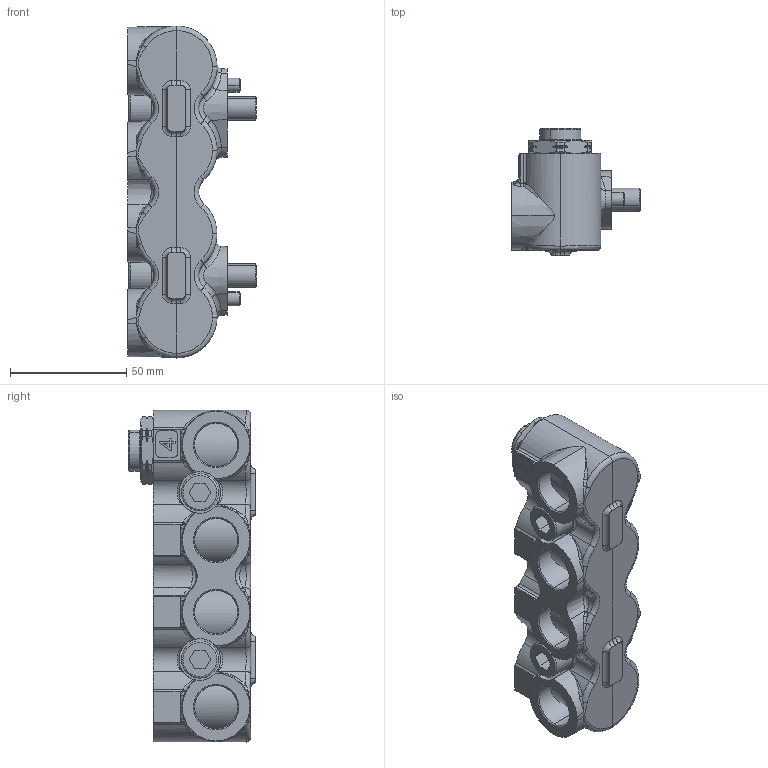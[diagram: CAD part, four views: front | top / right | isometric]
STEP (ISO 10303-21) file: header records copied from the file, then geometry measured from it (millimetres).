
FILE_DESCRIPTION (( 'STEP AP214' ), '1' );
FILE_NAME ('P7319-1B.STEP', '2023-05-25T09:27:05', ( '' ), ( '' ), 'SwSTEP 2.0', 'SolidWorks 2021', '' );
FILE_SCHEMA (( 'AUTOMOTIVE_DESIGN' ));
Length unit declared in the file: millimetre
Products named in the file (1): P7319-1B
Bounding box: 55.5 x 54.8 x 143 mm (x, y, z)
Volume: 189145.5 mm3; surface area: 41549.8 mm2
Topology: 8 solids, 8 shells, 513 faces, 1276 edges, 793 vertices
Faces by surface type: cylinder 144, bspline 144, plane 112, cone 89, torus 24
Entity records: 27223 total; most frequent: CARTESIAN_POINT 10540, ORIENTED_EDGE 2544, DIRECTION 1981, EDGE_CURVE 1272, AXIS2_PLACEMENT_3D 796, VERTEX_POINT 793, EDGE_LOOP 535, UNCERTAINTY_MEASURE_WITH_UNIT 523
